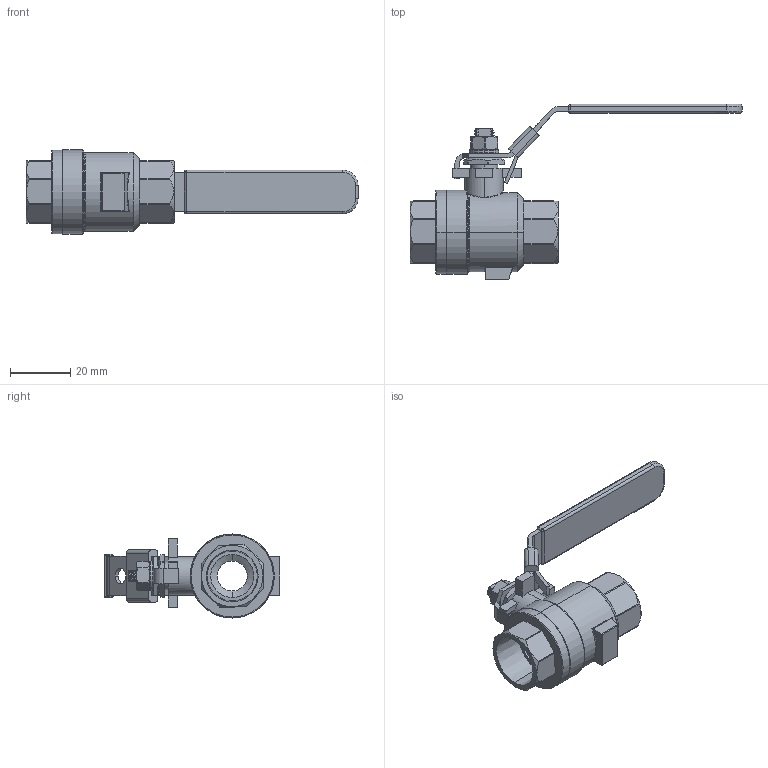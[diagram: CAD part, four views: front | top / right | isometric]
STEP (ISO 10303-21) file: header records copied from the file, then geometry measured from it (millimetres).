
FILE_DESCRIPTION (( 'STEP AP203' ), '1' );
FILE_NAME ('sgf-3.STEP', '2022-03-18T18:50:23', ( '' ), ( '' ), 'SwSTEP 2.0', 'SolidWorks 2021', '' );
FILE_SCHEMA (( 'CONFIG_CONTROL_DESIGN' ));
Length unit declared in the file: inch
Products named in the file (1): sgf-3
Bounding box: 109.86 x 58.14 x 27.81 mm (x, y, z)
Volume: 22356.2 mm3; surface area: 13704.5 mm2
Topology: 6 solids, 7 shells, 371 faces, 969 edges, 623 vertices
Faces by surface type: plane 141, cylinder 103, bspline 63, cone 37, torus 27
Entity records: 34344 total; most frequent: CARTESIAN_POINT 25949, ORIENTED_EDGE 1930, DIRECTION 1514, EDGE_CURVE 965, VERTEX_POINT 623, AXIS2_PLACEMENT_3D 565, EDGE_LOOP 392, LINE 384
